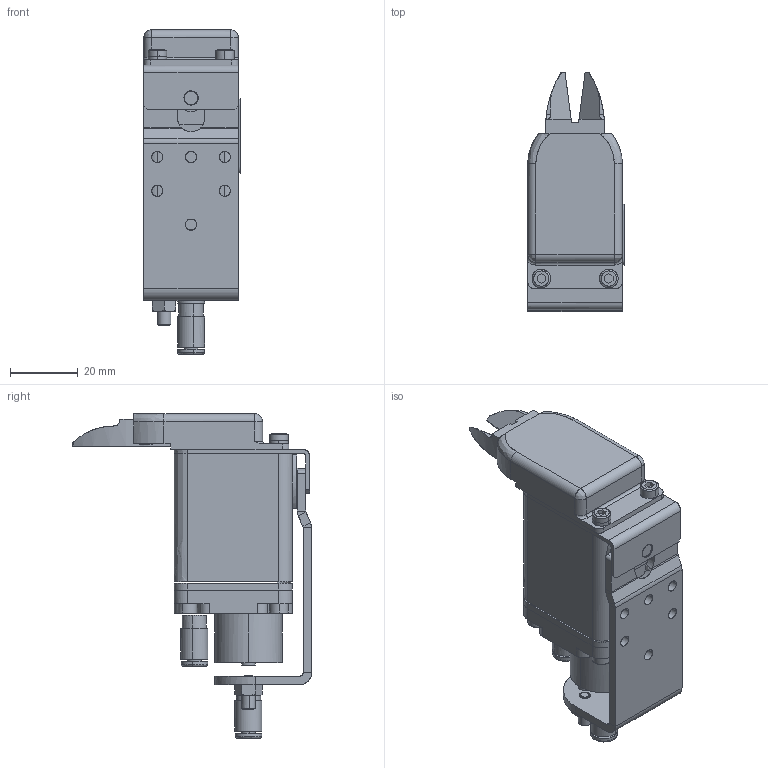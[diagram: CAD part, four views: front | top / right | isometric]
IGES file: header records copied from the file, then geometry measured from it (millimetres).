
Start section: SolidWorks IGES file using analytic representation for surfaces
Global section: file name: C:\Users\STAR056C\Desktop\1080_h-yashiro\図面データ\131629\ネット記載用\131629.IGS; native system: SolidWorks 2018; preprocessor: SolidWorks 2018; author: STAR056C; date: 190429.162033; units: millimetre
Bounding box: 28.55 x 70.81 x 96.1 mm (x, y, z)
Surface area: 24615.5 mm2 (no closed solid volume)
Topology: 0 solids, 0 shells, 454 faces, 6664 edges, 6655 vertices
Faces by surface type: bspline 454
